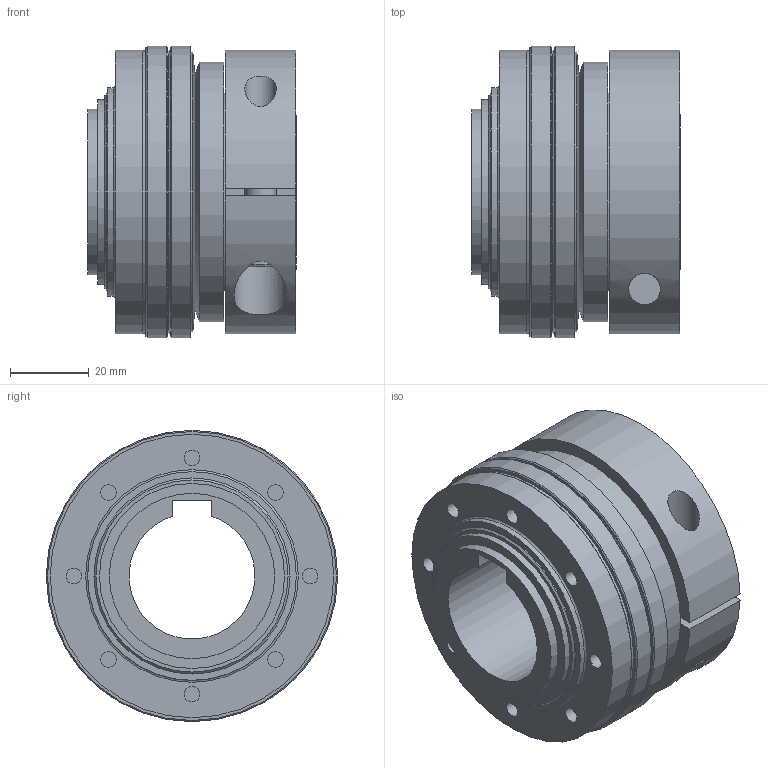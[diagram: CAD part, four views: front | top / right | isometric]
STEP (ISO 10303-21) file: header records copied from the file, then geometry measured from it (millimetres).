
FILE_DESCRIPTION(/* description */ ('STEP AP214'),/* implementation_level */ '2;1');
FILE_NAME(/* name */ 'C:\Diequa Files\DieQua Coupling\TA\STP\TA.60.WD.#.#.stp',/* time_stamp */ '2019-04-26T13:12:40-05:00',/* author */ ('DiequaCAD'),/* organization */ (''),/* preprocessor_version */ 'ST-DEVELOPER v18',/* originating_system */ 'Autodesk Inventor 2020',/* authorisation */ ' ');
FILE_SCHEMA (('AUTOMOTIVE_DESIGN { 1 0 10303 214 3 1 1 }'));
Length unit declared in the file: millimetre
Products named in the file (1): SLN_60_53_W_32_PFN_55_30_80_11
Bounding box: 53 x 74 x 74 mm (x, y, z)
Volume: 147941.1 mm3; surface area: 32299.4 mm2
Topology: 1 solids, 1 shells, 79 faces, 207 edges, 153 vertices
Faces by surface type: plane 41, cylinder 25, cone 8, torus 5
Full cylindrical faces by diameter (mm): 4 x8, 8 x2, 8.5 x1, 13 x1, 13.5 x1, 42 x1, 47 x1, 49.8 x1, 53 x1, 66 x1, 71.6 x1, 71.8 x1, 72 x1, 74 x2
Entity records: 2703 total; most frequent: CARTESIAN_POINT 536, DIRECTION 483, ORIENTED_EDGE 414, EDGE_CURVE 207, AXIS2_PLACEMENT_3D 204, VERTEX_POINT 153, CIRCLE 124, EDGE_LOOP 106
